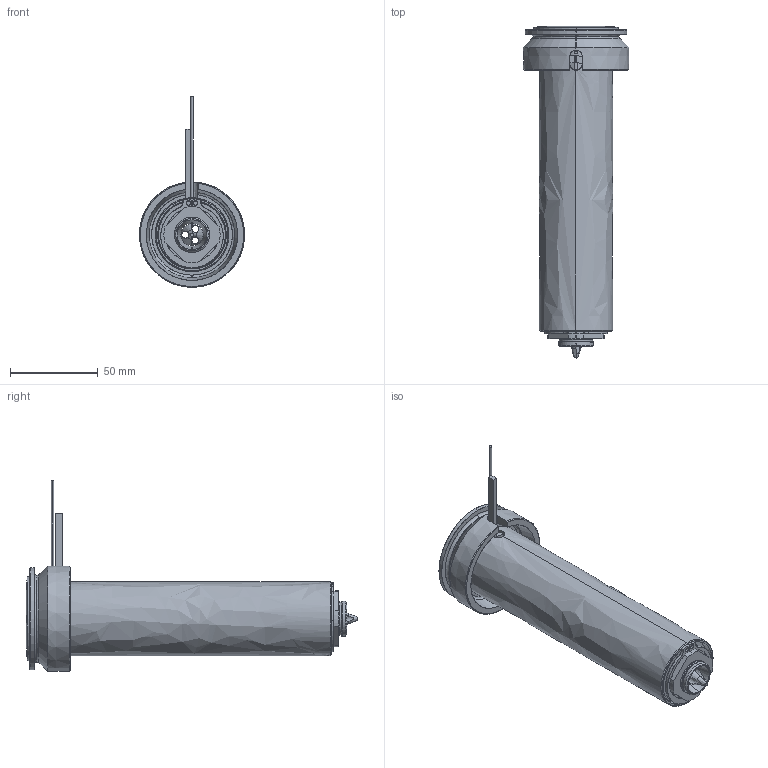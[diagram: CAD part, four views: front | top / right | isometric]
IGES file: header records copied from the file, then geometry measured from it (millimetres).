
Start section: SolidWorks IGES file using analytic representation for surfaces
Global section: file name: C:\Documents and Settings\ws-20\Desktop\TEM\UGEP6007-M-A-1 [Øf-1.9 ØC-17].IGS; native system: SolidWorks 2012; preprocessor: SolidWorks 2012; author: ws-20; date: 120427.094818; units: millimetre
Bounding box: 60 x 189.05 x 108.65 mm (x, y, z)
Surface area: 89005.2 mm2 (no closed solid volume)
Topology: 0 solids, 0 shells, 129 faces, 2315 edges, 2315 vertices
Faces by surface type: revolution 83, bspline 46
